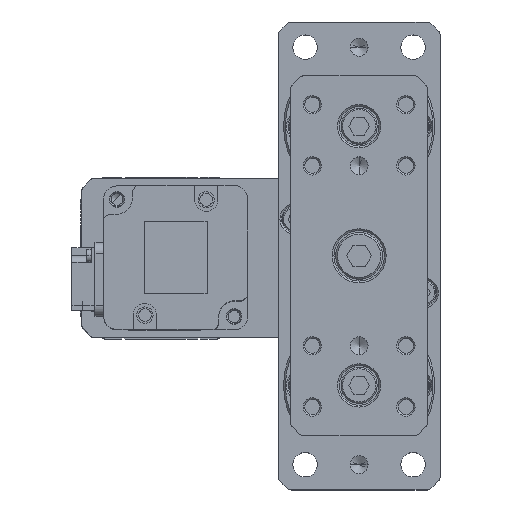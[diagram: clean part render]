
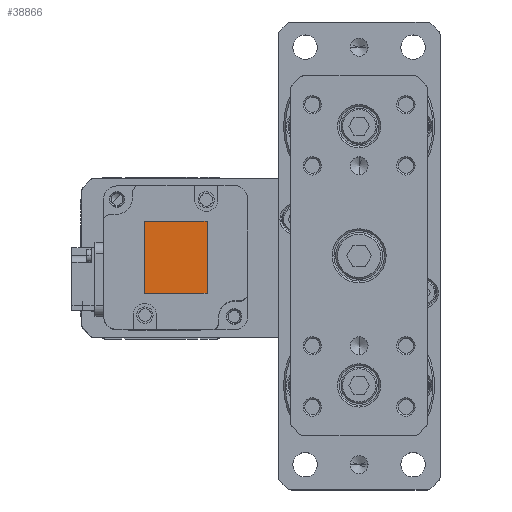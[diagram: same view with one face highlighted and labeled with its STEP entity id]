
A CAD part, top view. The second image highlights one B-rep face of the part: STEP entity #38866.
In plain terms, the highlighted planar face has unit normal (0, 0, 1) as drawn and (0, 0, -1) by its records, which use the part's own axes.
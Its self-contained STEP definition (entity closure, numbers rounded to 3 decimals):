
#947 = CARTESIAN_POINT ( 'NONE',  ( 10., -8.75, -82.6 ) ) ;
#2656 = VERTEX_POINT ( 'NONE', #947 ) ;
#3825 = DIRECTION ( 'NONE',  ( 1., 0., 0. ) ) ;
#3955 = AXIS2_PLACEMENT_3D ( 'NONE', #7021, #23744, #3825 ) ;
#6461 = LINE ( 'NONE', #26789, #23100 ) ;
#6594 = EDGE_LOOP ( 'NONE', ( #39413, #30267, #37022, #30545 ) ) ;
#7021 = CARTESIAN_POINT ( 'NONE',  ( 0., 0., -82.6 ) ) ;
#7345 = VECTOR ( 'NONE', #7585, 1000. ) ;
#7585 = DIRECTION ( 'NONE',  ( 0., -1., 0. ) ) ;
#8040 = EDGE_CURVE ( 'NONE', #20587, #15402, #6461, .T. ) ;
#9536 = CARTESIAN_POINT ( 'NONE',  ( -10., 8.75, -82.6 ) ) ;
#12900 = DIRECTION ( 'NONE',  ( 0., 1., 0. ) ) ;
#13607 = FACE_OUTER_BOUND ( 'NONE', #6594, .T. ) ;
#13623 = VECTOR ( 'NONE', #12900, 1000. ) ;
#13707 = PLANE ( 'NONE',  #3955 ) ;
#14454 = EDGE_CURVE ( 'NONE', #38469, #20587, #40160, .T. ) ;
#15402 = VERTEX_POINT ( 'NONE', #37057 ) ;
#17307 = CARTESIAN_POINT ( 'NONE',  ( -10., 8.75, -82.6 ) ) ;
#20217 = LINE ( 'NONE', #42219, #41529 ) ;
#20587 = VERTEX_POINT ( 'NONE', #17307 ) ;
#22137 = DIRECTION ( 'NONE',  ( -1., 0., 0. ) ) ;
#23100 = VECTOR ( 'NONE', #36810, 1000. ) ;
#23744 = DIRECTION ( 'NONE',  ( 0., 0., 1. ) ) ;
#24007 = EDGE_CURVE ( 'NONE', #2656, #38469, #20217, .T. ) ;
#26789 = CARTESIAN_POINT ( 'NONE',  ( 10., 8.75, -82.6 ) ) ;
#27517 = CARTESIAN_POINT ( 'NONE',  ( 10., -8.75, -82.6 ) ) ;
#30267 = ORIENTED_EDGE ( 'NONE', *, *, #8040, .T. ) ;
#30545 = ORIENTED_EDGE ( 'NONE', *, *, #24007, .T. ) ;
#34524 = CARTESIAN_POINT ( 'NONE',  ( -10., -8.75, -82.6 ) ) ;
#35944 = LINE ( 'NONE', #27517, #7345 ) ;
#36810 = DIRECTION ( 'NONE',  ( 1., 0., 0. ) ) ;
#37022 = ORIENTED_EDGE ( 'NONE', *, *, #38979, .T. ) ;
#37057 = CARTESIAN_POINT ( 'NONE',  ( 10., 8.75, -82.6 ) ) ;
#38469 = VERTEX_POINT ( 'NONE', #34524 ) ;
#38866 = ADVANCED_FACE ( 'NONE', ( #13607 ), #13707, .F. ) ;
#38979 = EDGE_CURVE ( 'NONE', #15402, #2656, #35944, .T. ) ;
#39413 = ORIENTED_EDGE ( 'NONE', *, *, #14454, .T. ) ;
#40160 = LINE ( 'NONE', #9536, #13623 ) ;
#41529 = VECTOR ( 'NONE', #22137, 1000. ) ;
#42219 = CARTESIAN_POINT ( 'NONE',  ( -10., -8.75, -82.6 ) ) ;
